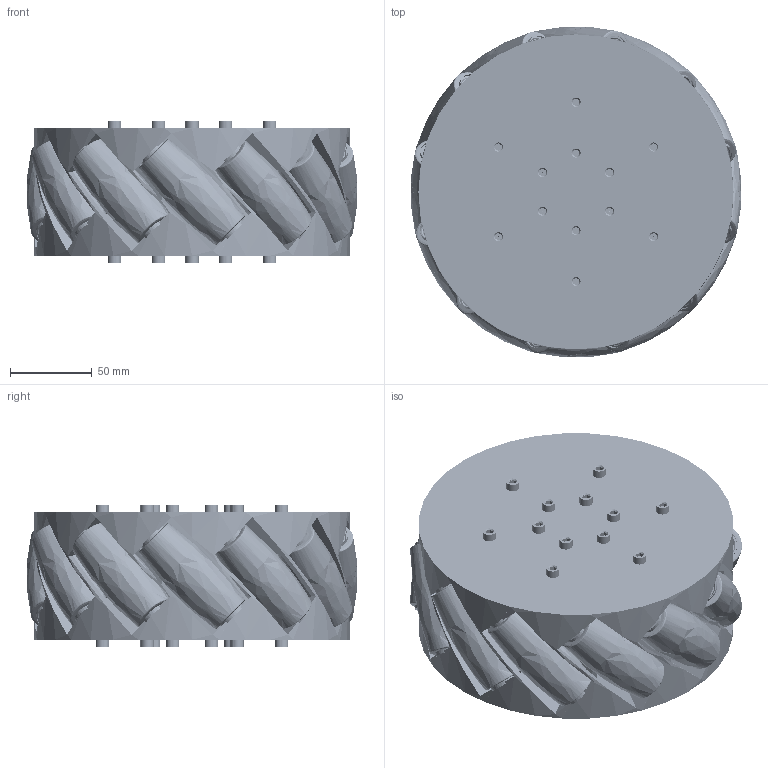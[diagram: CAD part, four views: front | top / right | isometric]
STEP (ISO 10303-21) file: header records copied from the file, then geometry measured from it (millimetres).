
FILE_DESCRIPTION(('Open CASCADE Model'),'2;1');
FILE_NAME('MM115-R.STEP','2026-10-18T18:21:46',('Author'),( 'Open CASCADE'),'Open CASCADE STEP processor 7.9','Open CASCADE 7.9' ,'Unknown');
FILE_SCHEMA(('AUTOMOTIVE_DESIGN { 1 0 10303 214 1 1 1 1 }'));
Length unit declared in the file: millimetre
Products named in the file (17): MM115-R; Open CASCADE STEP translator 7.9 14.1; Open CASCADE STEP translator 7.9 14.2; Open CASCADE STEP translator 7.9 14.2.1; Open CASCADE STEP translator 7.9 14.2.2; Open CASCADE STEP translator 7.9 14.14; Open CASCADE STEP translator 7.9 14.16; Open CASCADE STEP translator 7.9 14.17; Open CASCADE STEP translator 7.9 14.17.1; Open CASCADE STEP translator 7.9 14.17.2; Open CASCADE STEP translator 7.9 14.29; Open CASCADE STEP translator 7.9 14.41; Open CASCADE STEP translator 7.9 14.47; Open CASCADE STEP translator 7.9 14.53; Open CASCADE STEP translator 7.9 14.77; Open CASCADE STEP translator 7.9 14.101; Open CASCADE STEP translator 7.9 14.102
Assembly tree (148 placements, depth 3):
  MM115-R
    Open CASCADE STEP translator 7.9 14.1
    Open CASCADE STEP translator 7.9 14.2  x12
      Open CASCADE STEP translator 7.9 14.2.1
      Open CASCADE STEP translator 7.9 14.2.2
    Open CASCADE STEP translator 7.9 14.14  x2
    Open CASCADE STEP translator 7.9 14.16
    Open CASCADE STEP translator 7.9 14.17  x12
      Open CASCADE STEP translator 7.9 14.17.1
      Open CASCADE STEP translator 7.9 14.17.2
    Open CASCADE STEP translator 7.9 14.29  x12
    Open CASCADE STEP translator 7.9 14.41  x6
    Open CASCADE STEP translator 7.9 14.47  x24
    Open CASCADE STEP translator 7.9 14.53  x24
    Open CASCADE STEP translator 7.9 14.77  x24
    Open CASCADE STEP translator 7.9 14.101  x25
    Open CASCADE STEP translator 7.9 14.102
Bounding box: 202.6 x 202.6 x 87.58 mm (x, y, z)
Volume: 3127631.1 mm3; surface area: 778092.3 mm2
Topology: 156 solids, 168 shells, 6069 faces, 14760 edges, 9353 vertices
Faces by surface type: cylinder 2173, plane 2145, bspline 840, cone 438, torus 425, revolution 48
Entity records: 87591 total; most frequent: CARTESIAN_POINT 49358, DIRECTION 6583, ORIENTED_EDGE 3858, PCURVE 3858, DEFINITIONAL_REPRESENTATION 3858, LINE 3476, VECTOR 3476, EDGE_CURVE 1931
